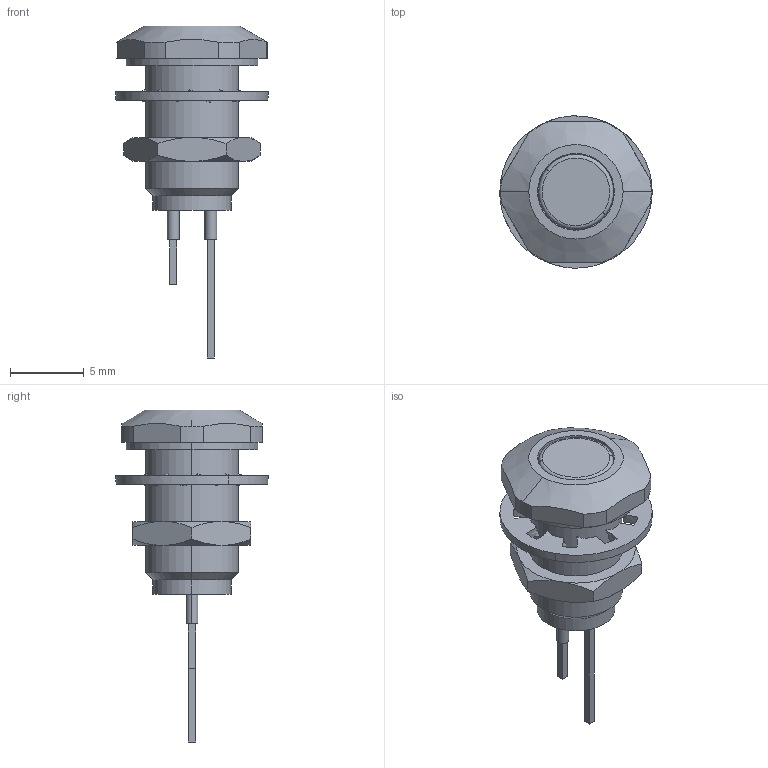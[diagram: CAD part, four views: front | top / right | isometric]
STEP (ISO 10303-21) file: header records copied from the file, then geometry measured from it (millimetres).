
FILE_DESCRIPTION (( 'STEP AP203' ), '1' );
FILE_NAME ('662 series.STEP', '2016-01-06T12:14:42', ( '' ), ( '' ), 'SwSTEP 2.0', 'SolidWorks 2015', '' );
FILE_SCHEMA (( 'CONFIG_CONTROL_DESIGN' ));
Length unit declared in the file: millimetre
Products named in the file (7): Indicator Pins; COM4274; 5FDR; COM2760; COM2014; COM3576_COM3579; 662 series
Assembly tree (6 placements, depth 2):
  662 series
    5FDR
    COM2014
    COM2760
    COM3576_COM3579
    COM4274
    Indicator Pins
Bounding box: 10.33 x 10.32 x 22.5 mm (x, y, z)
Volume: 368.6 mm3; surface area: 1003.6 mm2
Topology: 6 solids, 6 shells, 161 faces, 384 edges, 252 vertices
Faces by surface type: cylinder 62, plane 47, bspline 30, cone 20, torus 2
Entity records: 10298 total; most frequent: CARTESIAN_POINT 6022, ORIENTED_EDGE 768, DIRECTION 663, EDGE_CURVE 384, AXIS2_PLACEMENT_3D 265, VERTEX_POINT 252, EDGE_LOOP 186, FACE_OUTER_BOUND 161
